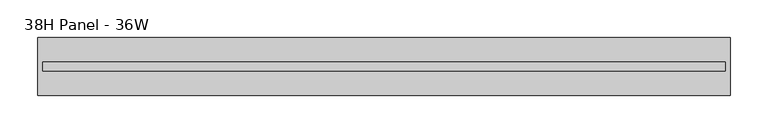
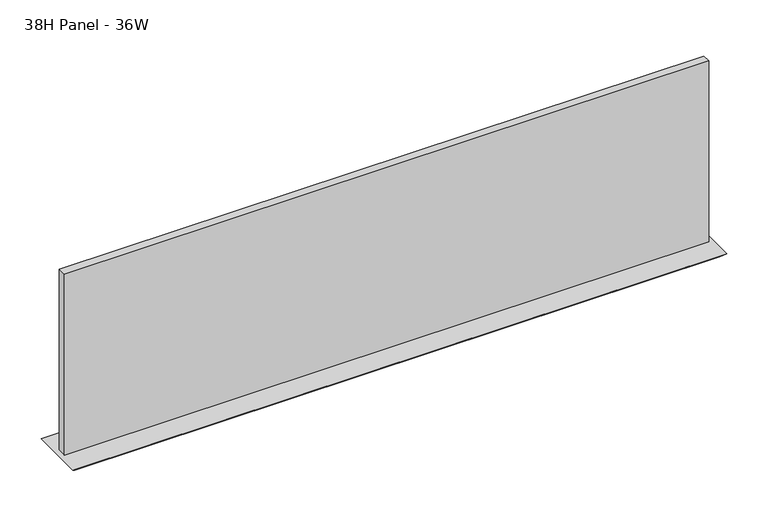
"""IFC4 building model written with IfcOpenShell, lengths in millimetres: furniture geometry, Steelcase - Montage - Tiles - 10H - Frameless Glass Stacker : 38H Panel - 36W."""

import ifcopenshell
import ifcopenshell.guid

model = None  # the IFC model being written
_history = None  # IfcOwnerHistory: only IFC2X3 demands one
_inside = {}  # id of a spatial element -> (the spatial element, [elements in it])
_under = {}  # id of a project, library or spatial element -> (it, [spatial elements below it])
_declared = {}  # id of a project -> (the project, [libraries it declares])
_typed = {}  # id of a type object -> (the type object, [elements of that type])
_made_of = {}  # id of a material, layer set ... -> (it, [elements and type objects made of it])


def new_model(schema):
    """Start an empty IFC model of exactly this schema.

    Asked for "IFC4X3", IfcOpenShell would pick the latest addendum, in which some entities
    have other attributes; the version numbers below select the first issue.
    IFC2X3 requires an IfcOwnerHistory on every rooted entity: one is made here for all.
    """
    global model, _history
    if schema == "IFC4X3":
        model = ifcopenshell.file(schema_version=(4, 3, 0, 0))
    else:
        model = ifcopenshell.file(schema=schema)
    _inside.clear()
    _under.clear()
    _declared.clear()
    _typed.clear()
    _made_of.clear()
    _history = None
    if model.schema == "IFC2X3":
        org = make("IfcOrganization", Name="unknown")
        user = make(
            "IfcPersonAndOrganization",
            ThePerson=make("IfcPerson", FamilyName="unknown"),
            TheOrganization=org,
        )
        app = make(
            "IfcApplication",
            ApplicationDeveloper=org,
            Version="unknown",
            ApplicationFullName="unknown",
            ApplicationIdentifier="unknown",
        )
        _history = make(
            "IfcOwnerHistory",
            OwningUser=user,
            OwningApplication=app,
            ChangeAction="ADDED",
            CreationDate=0,
        )
    return model


def make(cls, **values):
    """One entity of the class cls with the attributes given. An attribute that is None is left unset."""
    return model.create_entity(
        cls, **{name: value for name, value in values.items() if value is not None}
    )


def rooted(cls, **values):
    """An entity with a GlobalId (a new one), such as an element, a storey or a relation."""
    return make(cls, GlobalId=ifcopenshell.guid.new(), OwnerHistory=_history, **values)


def si_unit(unit_type, name, prefix=None):
    """IfcSIUnit, for example si_unit("LENGTHUNIT", "METRE", prefix="MILLI")."""
    return make("IfcSIUnit", UnitType=unit_type, Prefix=prefix, Name=name)


def assignment(units):
    """IfcUnitAssignment: the units of a project."""
    return None if units is None else make("IfcUnitAssignment", Units=units)


def point(xyz):
    """IfcCartesianPoint."""
    return None if xyz is None else make("IfcCartesianPoint", Coordinates=xyz)


def direction(xyz):
    """IfcDirection."""
    return None if xyz is None else make("IfcDirection", DirectionRatios=xyz)


def frame(location, z_axis=None, x_axis=None):
    """IfcAxis2Placement3D, a coordinate frame: its origin and axes. An axis left out is left unset."""
    return make(
        "IfcAxis2Placement3D",
        Location=point(location),
        Axis=direction(z_axis),
        RefDirection=direction(x_axis),
    )


def origin():
    """The frame at (0, 0, 0) with its axes left unset."""
    return frame((0.0, 0.0, 0.0))


def place(relative_to, where):
    """IfcLocalPlacement: puts the frame where relative to a parent placement (None: the world)."""
    return make(
        "IfcLocalPlacement", PlacementRelTo=relative_to, RelativePlacement=where
    )


def context(
    kind, dimensions, precision=None, world=None, true_north=None, identifier=None
):
    """IfcGeometricRepresentationContext, for example the 3D "Model" context."""
    return make(
        "IfcGeometricRepresentationContext",
        ContextIdentifier=identifier,
        ContextType=kind,
        CoordinateSpaceDimension=dimensions,
        Precision=precision,
        WorldCoordinateSystem=world,
        TrueNorth=true_north,
    )


def project(units=None, contexts=None):
    """IfcProject with its units and contexts."""
    return rooted(
        "IfcProject",
        Name="project",
        RepresentationContexts=contexts,
        UnitsInContext=assignment(units),
    )


def spatial(cls, under=None, at=None, **own):
    """A site, building, storey or space (cls), placed at a placement, below another one or the project."""
    s = rooted(cls, ObjectPlacement=at, **own)
    if under is not None:
        _under.setdefault(under.id(), (under, []))[1].append(s)
    return s


def polyline(points):
    """IfcPolyline through the points."""
    return make("IfcPolyline", Points=[point(p) for p in points])


def outline(outer, holes=None, kind="AREA"):
    """IfcArbitraryClosedProfileDef: a profile drawn as a closed curve; with holes, ...WithVoids."""
    if holes is None:
        return make("IfcArbitraryClosedProfileDef", ProfileType=kind, OuterCurve=outer)
    return make(
        "IfcArbitraryProfileDefWithVoids",
        ProfileType=kind,
        OuterCurve=outer,
        InnerCurves=holes,
    )


def extrude(swept, where, along, depth):
    """IfcExtrudedAreaSolid: the profile swept, set in the frame where, extruded along a direction by depth."""
    return make(
        "IfcExtrudedAreaSolid",
        SweptArea=swept,
        Position=where,
        ExtrudedDirection=direction(along),
        Depth=depth,
    )


def faces_of(points, faces, orient=None, outer=None):
    """IfcFace entities. A face is a list of loops; a loop is a list of indices into points, from 0.

    orient and outer hold one flag for each loop. By default every Orientation is true, the
    first loop of a face is its IfcFaceOuterBound and the others are IfcFaceBound.
    """
    made = []
    for i, loops in enumerate(faces):
        bounds = []
        for j, loop in enumerate(loops):
            is_outer = j == 0 if outer is None else outer[i][j]
            bounds.append(
                make(
                    "IfcFaceOuterBound" if is_outer else "IfcFaceBound",
                    Bound=make("IfcPolyLoop", Polygon=[points[k] for k in loop]),
                    Orientation=True if orient is None else orient[i][j],
                )
            )
        made.append(make("IfcFace", Bounds=bounds))
    return made


def faceted_brep(points, faces, orient=None, outer=None, voids=None):
    """IfcFacetedBrep: a solid bounded by flat faces; with voids (closed shells), ...WithVoids."""
    shared = [point(p) for p in points]
    hull = make("IfcClosedShell", CfsFaces=faces_of(shared, faces, orient, outer))
    if voids is None:
        return make("IfcFacetedBrep", Outer=hull)
    return make(
        "IfcFacetedBrepWithVoids",
        Outer=hull,
        Voids=[
            make(cls, CfsFaces=faces_of(shared, fs, o, b)) for cls, fs, o, b in voids
        ],
    )


def shape(context_of_items, identifier, shape_type, items):
    """IfcShapeRepresentation: the items that make up one representation, for example the "Body"."""
    return make(
        "IfcShapeRepresentation",
        ContextOfItems=context_of_items,
        RepresentationIdentifier=identifier,
        RepresentationType=shape_type,
        Items=items,
    )


def source(mapping_origin, context_of_items, identifier, shape_type, items):
    """IfcRepresentationMap: a shape defined once, which mapped items show again and again."""
    return make(
        "IfcRepresentationMap",
        MappingOrigin=mapping_origin,
        MappedRepresentation=shape(context_of_items, identifier, shape_type, items),
    )


def transform(
    local_origin,
    x_axis=None,
    y_axis=None,
    z_axis=None,
    scale=None,
    scale2=None,
    scale3=None,
    uniform=True,
):
    """IfcCartesianTransformationOperator3D, or its non-uniform kind. x_axis, y_axis, z_axis: its Axis1, 2, 3."""
    if uniform:
        return make(
            "IfcCartesianTransformationOperator3D",
            Axis1=direction(x_axis),
            Axis2=direction(y_axis),
            LocalOrigin=point(local_origin),
            Scale=scale,
            Axis3=direction(z_axis),
        )
    return make(
        "IfcCartesianTransformationOperator3DnonUniform",
        Axis1=direction(x_axis),
        Axis2=direction(y_axis),
        LocalOrigin=point(local_origin),
        Scale=scale,
        Axis3=direction(z_axis),
        Scale2=scale2,
        Scale3=scale3,
    )


def mapped(mapping_source, mapping_target):
    """IfcMappedItem: shows the shape of a source again, moved by a transform."""
    return make(
        "IfcMappedItem", MappingSource=mapping_source, MappingTarget=mapping_target
    )


def made_of(thing, what):
    """Note that an element or type object is made of a material, layer set ...; save() writes the relation."""
    if what is not None:
        _made_of.setdefault(what.id(), (what, []))[1].append(thing)
    return thing


def element(
    cls,
    number,
    at=None,
    inside=None,
    cuts=None,
    type_object=None,
    material=None,
    context=None,
    identifier="Body",
    shape_type=None,
    held_by="IfcProductDefinitionShape",
    body=None,
    shapes=None,
    **own,
):
    """One element of the class cls, such as IfcWall. Its Tag is "e" and its number.

    at: its placement. inside: the storey or other place that contains it. cuts: it is an
    opening in that element (IfcRelVoidsElement). A single representation is given by context,
    identifier, shape_type and body (its items); several are given by shapes. held_by: the class
    of the entity that holds the representations. save() writes the other relations.
    """
    e = rooted(cls, Tag="e%d" % number, ObjectPlacement=at, **own)
    if body is not None:
        shapes = [shape(context, identifier, shape_type, body)]
    if shapes is not None:
        e.Representation = make(held_by, Representations=shapes)
    if inside is not None:
        _inside.setdefault(inside.id(), (inside, []))[1].append(e)
    if cuts is not None:
        rooted(
            "IfcRelVoidsElement", RelatingBuildingElement=cuts, RelatedOpeningElement=e
        )
    if type_object is not None:
        _typed.setdefault(type_object.id(), (type_object, []))[1].append(e)
    return made_of(e, material)


def aggregate(whole, parts):
    """IfcRelAggregates: a whole, such as a stair, and the parts it consists of."""
    return rooted("IfcRelAggregates", RelatingObject=whole, RelatedObjects=parts)


def save(model, path):
    """Write the relations noted so far, then the file.

    IfcRelAggregates (storeys below a building ...), IfcRelContainedInSpatialStructure (elements
    in a storey), IfcRelDefinesByType, IfcRelAssociatesMaterial and IfcRelDeclares: one each for
    every whole, place, type object, material and project.
    """
    for whole, parts in _under.values():
        aggregate(whole, parts)
    for where, things in _inside.values():
        rooted(
            "IfcRelContainedInSpatialStructure",
            RelatedElements=things,
            RelatingStructure=where,
        )
    for kind, things in _typed.values():
        rooted("IfcRelDefinesByType", RelatedObjects=things, RelatingType=kind)
    for what, things in _made_of.values():
        rooted("IfcRelAssociatesMaterial", RelatedObjects=things, RelatingMaterial=what)
    for by, libraries in _declared.values():
        rooted("IfcRelDeclares", RelatingContext=by, RelatedDefinitions=libraries)
    model.write(path)


def furniture_38h_panel_36w_009f39b3(model_context):
    return source(origin(), model_context, "Body", "SolidModel", [
        faceted_brep([(914.4, -38.1000015, 958.85), (0.0, -38.1000015, 958.85), (6.35, -31.7500015, 952.5), (908.05, -31.7500015, 952.5), (6.35, 31.7500015, 952.5), (908.05, 31.7500015, 952.5), (0.0, 38.1000015, 958.85), (914.4, 38.1000015, 958.85)], [[[0, 1, 2, 3]], [[3, 2, 4, 5]], [[6, 7, 5, 4]], [[1, 0, 7, 6]], [[2, 1, 6, 4]], [[0, 3, 5, 7]]]),
        extrude(outline(polyline([(907.6181828, -5.9944001), (6.7818001, -5.9944001), (6.7818001, 5.9944008), (907.6181828, 5.9944008), (907.6181828, -5.9944001)])), frame((0.0, 0.0, 958.85), z_axis=(0.0, 0.0, 1.0), x_axis=(1.0, 0.0, 0.0)), (0.0, 0.0, 1.0), 267.7160475),
    ])


if __name__ == "__main__":
    model = new_model("IFC4")
    model_context = context("Model", 3, world=origin())
    ifc_project = project(units=[si_unit("LENGTHUNIT", "METRE", prefix="MILLI")], contexts=[model_context])
    site = spatial("IfcSite", under=ifc_project)
    building = spatial("IfcBuilding", under=site)
    placement = place(None, origin())
    furniture_38h_panel_36w_shape = furniture_38h_panel_36w_009f39b3(model_context)
    element("IfcFurniture", 1, ObjectType="Steelcase - Montage - Tiles - 10H - Frameless Glass Stacker : 38H Panel - 36W", at=placement, inside=building, context=model_context, shape_type="MappedRepresentation", body=[
        mapped(furniture_38h_panel_36w_shape, transform((0.0, 0.0, 0.0), x_axis=(1.0, 0.0, 0.0), y_axis=(0.0, 1.0, 0.0), z_axis=(0.0, 0.0, 1.0))),
    ])
    save(model, "model.ifc")
